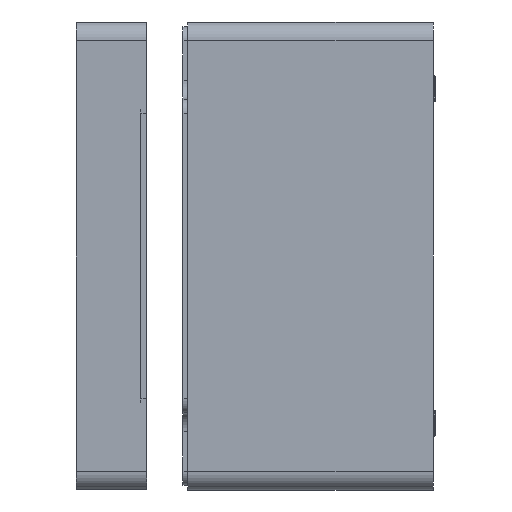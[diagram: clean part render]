
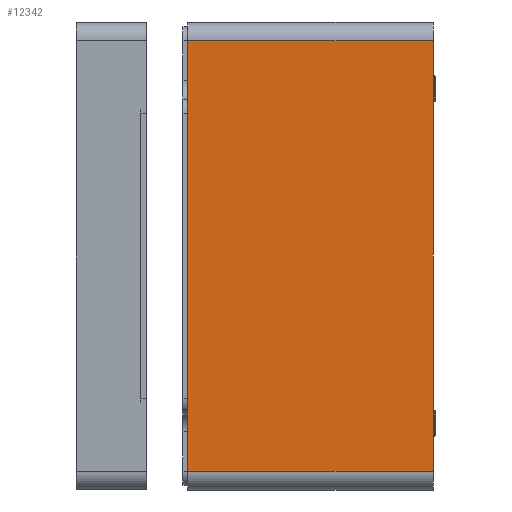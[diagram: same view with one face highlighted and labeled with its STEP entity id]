
A CAD part, left-side view. The second image highlights one B-rep face of the part: STEP entity #12342.
In plain terms, the highlighted planar face has unit normal (-1, 0, 0).
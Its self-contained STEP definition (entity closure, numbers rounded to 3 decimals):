
#930 = ORIENTED_EDGE ( 'NONE', *, *, #8507, .T. ) ;
#2220 = DIRECTION ( 'NONE',  ( 0., 1., 0. ) ) ;
#2357 = CARTESIAN_POINT ( 'NONE',  ( -100., 105., 92. ) ) ;
#2366 = EDGE_CURVE ( 'NONE', #26442, #25748, #18864, .T. ) ;
#2663 = CARTESIAN_POINT ( 'NONE',  ( -100., 105., 92. ) ) ;
#3184 = CARTESIAN_POINT ( 'NONE',  ( -100., 105., -92. ) ) ;
#3236 = VECTOR ( 'NONE', #2220, 1000. ) ;
#4146 = EDGE_CURVE ( 'NONE', #26442, #23950, #15485, .T. ) ;
#4454 = DIRECTION ( 'NONE',  ( 0., 0., 1. ) ) ;
#6313 = CARTESIAN_POINT ( 'NONE',  ( -100., 105., -92. ) ) ;
#8172 = DIRECTION ( 'NONE',  ( 0., 0., -1. ) ) ;
#8507 = EDGE_CURVE ( 'NONE', #25748, #15121, #27134, .T. ) ;
#10424 = VECTOR ( 'NONE', #18582, 1000. ) ;
#11479 = AXIS2_PLACEMENT_3D ( 'NONE', #20589, #18642, #8172 ) ;
#12342 = ADVANCED_FACE ( 'NONE', ( #24741 ), #23213, .F. ) ;
#12935 = LINE ( 'NONE', #2357, #3236 ) ;
#13763 = VECTOR ( 'NONE', #4454, 1000. ) ;
#15121 = VERTEX_POINT ( 'NONE', #16839 ) ;
#15485 = LINE ( 'NONE', #21416, #13763 ) ;
#15973 = EDGE_LOOP ( 'NONE', ( #930, #22519, #16118, #17877 ) ) ;
#16118 = ORIENTED_EDGE ( 'NONE', *, *, #4146, .F. ) ;
#16794 = CARTESIAN_POINT ( 'NONE',  ( -100., 0., -100. ) ) ;
#16839 = CARTESIAN_POINT ( 'NONE',  ( -100., 0., 92. ) ) ;
#17393 = EDGE_CURVE ( 'NONE', #15121, #23950, #12935, .T. ) ;
#17877 = ORIENTED_EDGE ( 'NONE', *, *, #2366, .T. ) ;
#18582 = DIRECTION ( 'NONE',  ( 0., 0., 1. ) ) ;
#18642 = DIRECTION ( 'NONE',  ( 1., 0., 0. ) ) ;
#18864 = LINE ( 'NONE', #6313, #26040 ) ;
#19274 = CARTESIAN_POINT ( 'NONE',  ( -100., 0., -92. ) ) ;
#20589 = CARTESIAN_POINT ( 'NONE',  ( -100., 105., -100. ) ) ;
#20799 = DIRECTION ( 'NONE',  ( 0., -1., 0. ) ) ;
#21416 = CARTESIAN_POINT ( 'NONE',  ( -100., 105., -100. ) ) ;
#22519 = ORIENTED_EDGE ( 'NONE', *, *, #17393, .T. ) ;
#23213 = PLANE ( 'NONE',  #11479 ) ;
#23950 = VERTEX_POINT ( 'NONE', #2663 ) ;
#24741 = FACE_OUTER_BOUND ( 'NONE', #15973, .T. ) ;
#25748 = VERTEX_POINT ( 'NONE', #19274 ) ;
#26040 = VECTOR ( 'NONE', #20799, 1000. ) ;
#26442 = VERTEX_POINT ( 'NONE', #3184 ) ;
#27134 = LINE ( 'NONE', #16794, #10424 ) ;
